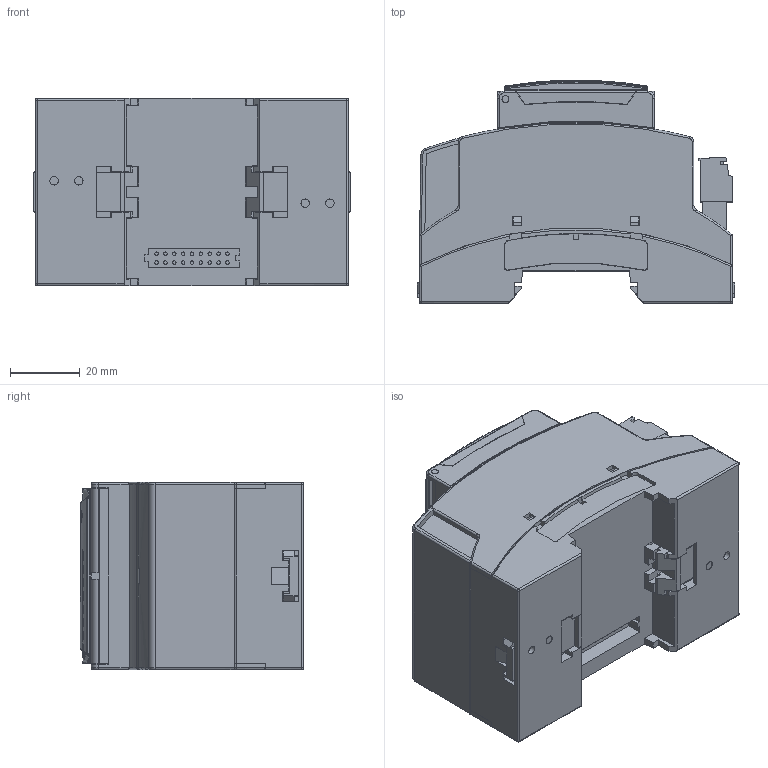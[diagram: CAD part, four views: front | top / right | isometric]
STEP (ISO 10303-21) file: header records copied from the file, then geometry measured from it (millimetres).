
FILE_DESCRIPTION(/* description */ (''),/* implementation_level */ '2;1');
FILE_NAME(/* name */ 'PLE500-10AD_20260618.stp',/* time_stamp */ '2026-06-18T14:50:29+02:00',/* author */ ('ut3'),/* organization */ (''),/* preprocessor_version */ 'ST-DEVELOPER v20.1',/* originating_system */ 'Autodesk Inventor 2026',/* authorisation */ '');
FILE_SCHEMA (('AUTOMOTIVE_DESIGN { 1 0 10303 214 3 1 1 }'));
Products named in the file (15): PLE500-10AD; 1300.20.270_2896403_03_BC-53-6-UT-HBUS-BK_3D; BC_53_6_GEH-UT_HBUS_H.Select__00383604; Fussriegel_14.4_L30_Sperr_H.Select__00370451; 1300.20.269_2896416_01_BC-53-6-OT-U11-KMGY_3D; BC_53_6_GEH-OT_U11_H.Select__00383939; 1300.20.324-MV2; PCB; 1; 1700495993; silicone; 1900.00.168-EV1; Mylar; adesivo; BC_53.6_B_U11_H.Select
Assembly tree (17 placements, depth 3):
  PLE500-10AD
    1300.20.270_2896403_03_BC-53-6-UT-HBUS-BK_3D
      BC_53_6_GEH-UT_HBUS_H.Select__00383604
      Fussriegel_14.4_L30_Sperr_H.Select__00370451  x2
    1300.20.269_2896416_01_BC-53-6-OT-U11-KMGY_3D
      BC_53_6_GEH-OT_U11_H.Select__00383939
    1300.20.324-MV2
    PCB
    1  x2
    1700495993
    silicone
      1900.00.168-EV1
      Mylar
      adesivo  x2
    BC_53.6_B_U11_H.Select
Bounding box: 91 x 63.94 x 53.6 mm (x, y, z)
Volume: 66362.3 mm3; surface area: 100801.1 mm2
Topology: 14 solids, 14 shells, 3673 faces, 9909 edges, 6409 vertices
Faces by surface type: plane 2840, cylinder 592, bspline 78, torus 67, cone 60, sphere 36
Full cylindrical faces by diameter (mm): 1 x18, 1.2 x12, 1.397 x24, 1.8 x24, 2 x4, 2.4 x6, 3 x29, 3.5 x1, 4 x2, 7 x1, 8 x2
Entity records: 108985 total; most frequent: CARTESIAN_POINT 28180, ORIENTED_EDGE 16884, DIRECTION 15691, EDGE_CURVE 8442, LINE 6967, VECTOR 6967, VERTEX_POINT 5493, AXIS2_PLACEMENT_3D 4362
